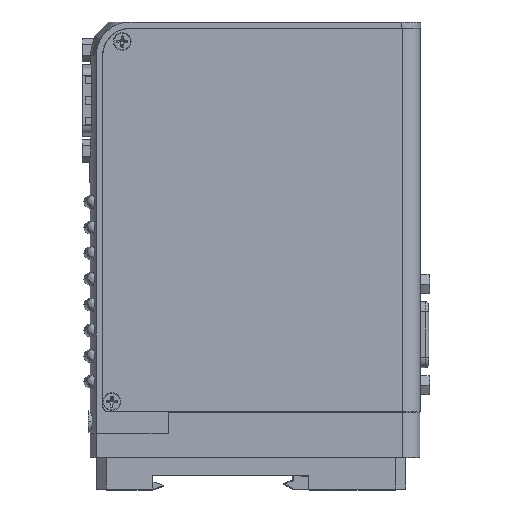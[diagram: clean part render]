
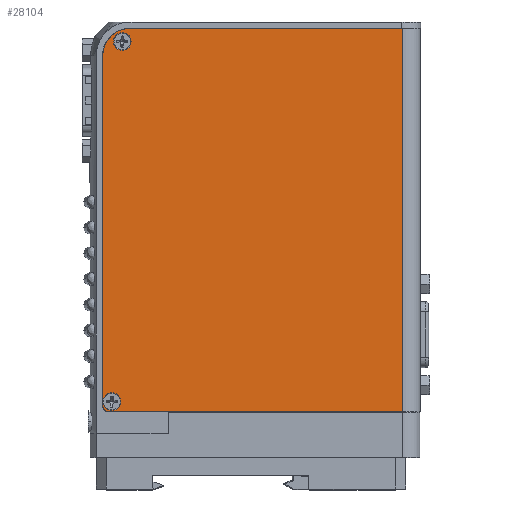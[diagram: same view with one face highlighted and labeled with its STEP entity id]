
A CAD part, top view. The second image highlights one B-rep face of the part: STEP entity #28104.
In plain terms, the highlighted planar face has unit normal (0, 0, 1).
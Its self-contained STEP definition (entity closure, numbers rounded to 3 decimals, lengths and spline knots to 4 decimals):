
#2698 = CARTESIAN_POINT ( 'NONE',  ( -0.0306, 5.294, 3.3427 ) ) ;
#4702 = DIRECTION ( 'NONE',  ( -1., 0., 0. ) ) ;
#5489 = FACE_OUTER_BOUND ( 'NONE', #19855, .T. ) ;
#6322 = DIRECTION ( 'NONE',  ( 1., 0., 0. ) ) ;
#7448 = DIRECTION ( 'NONE',  ( 1., 0., 0. ) ) ;
#8087 = CIRCLE ( 'NONE', #21768, 0.086 ) ;
#8458 = CARTESIAN_POINT ( 'NONE',  ( 0.0574, 1.931, 3.3427 ) ) ;
#9738 = ORIENTED_EDGE ( 'NONE', *, *, #13930, .F. ) ;
#10673 = VERTEX_POINT ( 'NONE', #61481 ) ;
#11003 = EDGE_CURVE ( 'NONE', #48176, #54929, #68548, .T. ) ;
#11560 = ORIENTED_EDGE ( 'NONE', *, *, #11003, .T. ) ;
#11802 = VECTOR ( 'NONE', #61637, 39.3701 ) ;
#12402 = EDGE_CURVE ( 'NONE', #10673, #61242, #18786, .T. ) ;
#12996 = AXIS2_PLACEMENT_3D ( 'NONE', #57216, #27549, #32633 ) ;
#13026 = CARTESIAN_POINT ( 'NONE',  ( 2.8884, 1.833, 3.3427 ) ) ;
#13930 = EDGE_CURVE ( 'NONE', #38908, #69243, #69591, .T. ) ;
#14099 = EDGE_CURVE ( 'NONE', #69243, #51061, #40163, .T. ) ;
#14914 = CARTESIAN_POINT ( 'NONE',  ( -0.0306, 1.896, 3.3427 ) ) ;
#17396 = AXIS2_PLACEMENT_3D ( 'NONE', #66778, #60914, #7448 ) ;
#17514 = CARTESIAN_POINT ( 'NONE',  ( -0.0286, 1.931, 3.3427 ) ) ;
#17528 = ORIENTED_EDGE ( 'NONE', *, *, #74399, .T. ) ;
#17758 = CARTESIAN_POINT ( 'NONE',  ( 0.0324, 1.833, 3.3427 ) ) ;
#18628 = DIRECTION ( 'NONE',  ( 0., 0., -1. ) ) ;
#18786 = CIRCLE ( 'NONE', #74892, 0.086 ) ;
#19563 = ORIENTED_EDGE ( 'NONE', *, *, #12402, .T. ) ;
#19855 = EDGE_LOOP ( 'NONE', ( #9738, #25174, #61968, #68771, #43872, #47143 ) ) ;
#21391 = CARTESIAN_POINT ( 'NONE',  ( 2.8884, 5.564, 3.3427 ) ) ;
#21768 = AXIS2_PLACEMENT_3D ( 'NONE', #22463, #35712, #64242 ) ;
#22256 = PLANE ( 'NONE',  #35606 ) ;
#22463 = CARTESIAN_POINT ( 'NONE',  ( 0.1594, 5.435, 3.3427 ) ) ;
#23025 = FACE_BOUND ( 'NONE', #65155, .T. ) ;
#23858 = CARTESIAN_POINT ( 'NONE',  ( 0.0324, 1.896, 3.3427 ) ) ;
#25174 = ORIENTED_EDGE ( 'NONE', *, *, #31509, .T. ) ;
#26318 = LINE ( 'NONE', #62620, #67930 ) ;
#27093 = CARTESIAN_POINT ( 'NONE',  ( 0.2394, 5.564, 3.3427 ) ) ;
#27549 = DIRECTION ( 'NONE',  ( 0., 0., -1. ) ) ;
#28104 = ADVANCED_FACE ( 'NONE', ( #23025, #59334, #5489 ), #22256, .F. ) ;
#29336 = DIRECTION ( 'NONE',  ( 0., 0., -1. ) ) ;
#31509 = EDGE_CURVE ( 'NONE', #38908, #55470, #26318, .T. ) ;
#31694 = CIRCLE ( 'NONE', #12996, 0.27 ) ;
#31935 = CIRCLE ( 'NONE', #60649, 0.086 ) ;
#32633 = DIRECTION ( 'NONE',  ( -1., 0., 0. ) ) ;
#33073 = CARTESIAN_POINT ( 'NONE',  ( 0.0574, 1.931, 3.3427 ) ) ;
#35606 = AXIS2_PLACEMENT_3D ( 'NONE', #76907, #58943, #4702 ) ;
#35712 = DIRECTION ( 'NONE',  ( 0., 0., -1. ) ) ;
#37644 = DIRECTION ( 'NONE',  ( 1., 0., 0. ) ) ;
#38908 = VERTEX_POINT ( 'NONE', #17758 ) ;
#39686 = DIRECTION ( 'NONE',  ( 1., 0., 0. ) ) ;
#40163 = LINE ( 'NONE', #46028, #72102 ) ;
#40329 = EDGE_CURVE ( 'NONE', #61242, #10673, #31935, .T. ) ;
#40546 = CARTESIAN_POINT ( 'NONE',  ( 3.0284, 5.564, 3.3427 ) ) ;
#43872 = ORIENTED_EDGE ( 'NONE', *, *, #74178, .F. ) ;
#45549 = DIRECTION ( 'NONE',  ( 0., 0., -1. ) ) ;
#46028 = CARTESIAN_POINT ( 'NONE',  ( -0.0306, 5.564, 3.3427 ) ) ;
#47143 = ORIENTED_EDGE ( 'NONE', *, *, #14099, .F. ) ;
#47186 = LINE ( 'NONE', #40546, #68777 ) ;
#48176 = VERTEX_POINT ( 'NONE', #49216 ) ;
#49216 = CARTESIAN_POINT ( 'NONE',  ( 0.0734, 5.435, 3.3427 ) ) ;
#51052 = LINE ( 'NONE', #21391, #11802 ) ;
#51061 = VERTEX_POINT ( 'NONE', #2698 ) ;
#51112 = DIRECTION ( 'NONE',  ( 0., 1., 0. ) ) ;
#52430 = VERTEX_POINT ( 'NONE', #27093 ) ;
#54527 = DIRECTION ( 'NONE',  ( 1., 0., 0. ) ) ;
#54929 = VERTEX_POINT ( 'NONE', #59199 ) ;
#55470 = VERTEX_POINT ( 'NONE', #13026 ) ;
#57119 = EDGE_LOOP ( 'NONE', ( #17528, #11560 ) ) ;
#57216 = CARTESIAN_POINT ( 'NONE',  ( 0.2394, 5.294, 3.3427 ) ) ;
#57404 = EDGE_CURVE ( 'NONE', #52430, #74640, #47186, .T. ) ;
#58372 = AXIS2_PLACEMENT_3D ( 'NONE', #23858, #29336, #6322 ) ;
#58943 = DIRECTION ( 'NONE',  ( 0., 0., -1. ) ) ;
#59199 = CARTESIAN_POINT ( 'NONE',  ( 0.2454, 5.435, 3.3427 ) ) ;
#59294 = DIRECTION ( 'NONE',  ( 1., 0., 0. ) ) ;
#59334 = FACE_BOUND ( 'NONE', #57119, .T. ) ;
#60649 = AXIS2_PLACEMENT_3D ( 'NONE', #8458, #18628, #54527 ) ;
#60914 = DIRECTION ( 'NONE',  ( 0., 0., -1. ) ) ;
#61242 = VERTEX_POINT ( 'NONE', #17514 ) ;
#61481 = CARTESIAN_POINT ( 'NONE',  ( 0.1434, 1.931, 3.3427 ) ) ;
#61637 = DIRECTION ( 'NONE',  ( 0., -1., 0. ) ) ;
#61968 = ORIENTED_EDGE ( 'NONE', *, *, #63612, .F. ) ;
#62620 = CARTESIAN_POINT ( 'NONE',  ( 2.8884, 1.833, 3.3427 ) ) ;
#63612 = EDGE_CURVE ( 'NONE', #74640, #55470, #51052, .T. ) ;
#64242 = DIRECTION ( 'NONE',  ( 1., 0., 0. ) ) ;
#65155 = EDGE_LOOP ( 'NONE', ( #19563, #71951 ) ) ;
#65982 = CARTESIAN_POINT ( 'NONE',  ( 2.8884, 5.564, 3.3427 ) ) ;
#66778 = CARTESIAN_POINT ( 'NONE',  ( 0.1594, 5.435, 3.3427 ) ) ;
#67930 = VECTOR ( 'NONE', #37644, 39.3701 ) ;
#68548 = CIRCLE ( 'NONE', #17396, 0.086 ) ;
#68771 = ORIENTED_EDGE ( 'NONE', *, *, #57404, .F. ) ;
#68777 = VECTOR ( 'NONE', #59294, 39.3701 ) ;
#69243 = VERTEX_POINT ( 'NONE', #14914 ) ;
#69591 = CIRCLE ( 'NONE', #58372, 0.063 ) ;
#71951 = ORIENTED_EDGE ( 'NONE', *, *, #40329, .T. ) ;
#72102 = VECTOR ( 'NONE', #51112, 39.3701 ) ;
#74178 = EDGE_CURVE ( 'NONE', #51061, #52430, #31694, .T. ) ;
#74399 = EDGE_CURVE ( 'NONE', #54929, #48176, #8087, .T. ) ;
#74640 = VERTEX_POINT ( 'NONE', #65982 ) ;
#74892 = AXIS2_PLACEMENT_3D ( 'NONE', #33073, #45549, #39686 ) ;
#76907 = CARTESIAN_POINT ( 'NONE',  ( 2.8884, 5.564, 3.3427 ) ) ;
